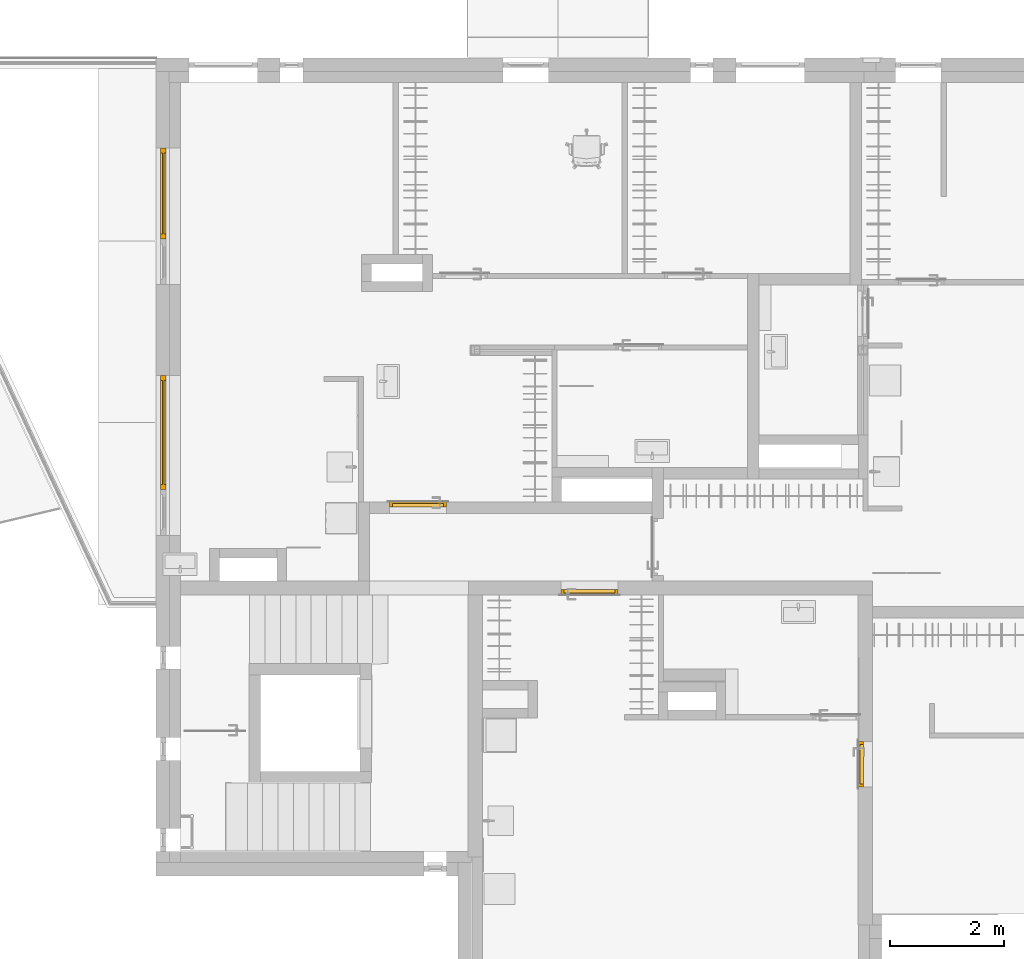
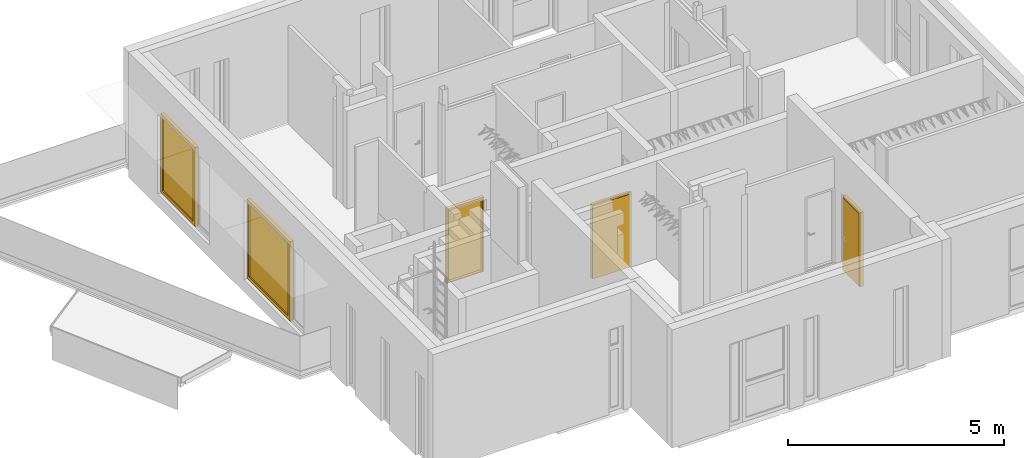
# One storey, part 13 of 42: 3 doors, 2 windows.
"""IFC2X3 building model written with IfcOpenShell, lengths in millimetres."""

from ifc_helpers import new_model, entity, si_unit, converted_unit, direction, frame, origin, place, context, subcontext, project, spatial, faceted_brep, source, transform, mapped, material, material_list, type_object, type_shapes, element, save


model = new_model("IFC2X3")

# Units and contexts
model_context = context("Model", 3, precision=0.01, world=origin(), true_north=direction((6.123233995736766e-17, 1.0)))
plan_context = context("Plan", 3, precision=0.01, world=origin(), true_north=direction((6.123233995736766e-17, 1.0)))
body_context = subcontext(model_context, "Body", "Model", "MODEL_VIEW")
ifc_project = project(units=[si_unit("LENGTHUNIT", "METRE", prefix="MILLI"), converted_unit("PLANEANGLEUNIT", "DEGREE", entity("IfcPlaneAngleMeasure", 0.017453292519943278), si_unit("PLANEANGLEUNIT", "RADIAN"), dimensions=[0, 0, 0, 0, 0, 0, 0]), si_unit("AREAUNIT", "SQUARE_METRE")], contexts=[model_context, plan_context])

# Site, building, storey
site_placement = place(None, origin())
site = spatial("IfcSite", under=ifc_project, at=site_placement, Name="Default", CompositionType="ELEMENT")
building_placement = place(site_placement, origin())
building = spatial("IfcBuilding", under=site, at=building_placement, CompositionType="ELEMENT")
storey_placement = place(building_placement, frame((0.0, 0.0, 9465.000076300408)))
storey = spatial("IfcBuildingStorey", under=building, at=storey_placement, Name="4K", CompositionType="ELEMENT", Elevation=9465.000076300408)

# Windows
ifc_material_1 = material(Name="_K. Avatäited. Raam. PVC. Valge")
ifc_material_2 = material(Name="_K. Klaas. Pakett")
ifc_material_3 = material(Name="_K. Avatäited. Raam. PVC. RAL9005")
ifc_material_list = material_list([ifc_material_1, ifc_material_2, ifc_material_3])
window_style_1 = type_object("IfcWindowStyle", Name="HR_Window_Generic_Rectangle_1x1:A-07.2000x2250.ma", ConstructionType="NOTDEFINED", OperationType="NOTDEFINED", ParameterTakesPrecedence=False, Sizeable=False, material=ifc_material_list)
shared_shape_1 = source(origin(), body_context, "Body", "Brep", [
    faceted_brep([(88.0, -194.0, 2162.0), (1912.0, -194.0, 2162.0), (1912.0, -194.0, 108.0), (88.0, -194.0, 108.0), (1942.0, -194.0, 2192.0), (58.0, -194.0, 2192.0), (58.0, -194.0, 78.0), (1942.0, -194.0, 78.0), (88.0, -159.0, 2162.0), (88.0, -159.0, 108.0), (1912.0, -159.0, 108.0), (1942.0, -159.0, 2192.0), (1942.0, -159.0, 78.0), (58.0, -159.0, 78.0), (58.0, -159.0, 2192.0), (1912.0, -159.0, 2162.0)], [[[0, 1, 2, 3], [4, 5, 6, 7]], [[8, 0, 3, 9]], [[9, 3, 2, 10]], [[11, 12, 13, 14], [15, 8, 9, 10]], [[1, 15, 10, 2]], [[6, 5, 14, 13]], [[7, 6, 13, 12]], [[4, 7, 12, 11]], [[15, 1, 0, 8]], [[5, 4, 11, 14]]], outer=[[False, True], [True], [True], [True, False], [True], [True], [True], [True], [True], [True]]),
    faceted_brep([(1942.0, -159.0, 2192.0), (58.0, -159.0, 2192.0), (58.0, -159.0, 78.0), (1942.0, -159.0, 78.0), (58.0, -134.0, 2192.0), (58.0, -134.0, 78.0), (1942.0, -134.0, 78.0), (1942.0, -134.0, 2192.0)], [[[0, 1, 2, 3]], [[2, 1, 4, 5]], [[3, 2, 5, 6]], [[0, 3, 6, 7]], [[7, 6, 5, 4]], [[1, 0, 7, 4]]]),
    faceted_brep([(1942.0, -134.0, 78.0), (58.0, -134.0, 78.0), (58.0, -194.0, 78.0), (1942.0, -194.0, 78.0), (58.0, -134.0, 2192.0), (58.0, -194.0, 2192.0), (1942.0, -134.0, 2192.0), (1942.0, -194.0, 2192.0), (88.0, -100.0, 108.0), (88.0, -100.0, 2162.0), (88.0, -134.0, 2162.0), (88.0, -134.0, 108.0), (1912.0, -100.0, 108.0), (1912.0, -134.0, 108.0), (1912.0, -100.0, 2162.0), (1912.0, -134.0, 2162.0), (0.0, -100.0, 2250.0), (2000.0, -100.0, 2250.0), (2000.0, -100.0, 30.0), (0.0, -100.0, 30.0), (2000.0, -194.0, 2250.0), (0.0, -194.0, 2250.0), (0.0, -194.0, 30.0), (2000.0, -194.0, 30.0), (0.0, -110.0, 30.0), (0.0, -110.0, 0.0), (0.0, -184.0, 0.0), (0.0, -184.0, 30.0), (2000.0, -184.0, 30.0), (2000.0, -184.0, 0.0), (2000.0, -110.0, 0.0), (2000.0, -110.0, 30.0)], [[[0, 1, 2, 3]], [[1, 4, 5, 2]], [[6, 0, 3, 7]], [[8, 9, 10, 11]], [[12, 8, 11, 13]], [[14, 12, 13, 15]], [[16, 17, 18, 19], [9, 8, 12, 14]], [[20, 21, 22, 23], [7, 3, 2, 5]], [[21, 16, 19, 24, 25, 26, 27, 22]], [[27, 28, 23, 22]], [[17, 20, 23, 28, 29, 30, 31, 18]], [[31, 24, 19, 18]], [[24, 31, 30, 25]], [[25, 30, 29, 26]], [[28, 27, 26, 29]], [[4, 6, 7, 5]], [[9, 14, 15, 10]], [[21, 20, 17, 16]], [[10, 15, 13, 11], [0, 6, 4, 1]]], outer=[[True], [True], [True], [True], [True], [True], [True, False], [True, False], [True], [True], [True], [True], [True], [True], [True], [True], [True], [True], [False, True]]),
])
type_shapes(window_style_1, [shared_shape_1])
window_1_placement = place(storey_placement, frame((-450.0, 8250.0, 150.0), z_axis=(0.0, 0.0, 1.0), x_axis=(0.0, 1.0, 0.0)))
element("IfcWindow", 1, at=window_1_placement, inside=storey, type_object=window_style_1, material=ifc_material_list, Name="HR_Window_Generic_Rectangle_1x1:A-07.2000x2250.ma", ObjectType="HR_Window_Generic_Rectangle_1x1:A-07.2000x2250.ma", OverallHeight=2315.0000000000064, OverallWidth=2000.0000000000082, context=body_context, shape_type="MappedRepresentation", body=[
    mapped(shared_shape_1, transform((0.0, 0.0, 0.0), scale=1.0)),
])
window_style_2 = type_object("IfcWindowStyle", Name="HR_Window_Generic_Rectangle_1x1:A-06.1600x2250.ma", ConstructionType="NOTDEFINED", OperationType="NOTDEFINED", ParameterTakesPrecedence=False, Sizeable=False, material=ifc_material_list)
shared_shape_2 = source(origin(), body_context, "Body", "Brep", [
    faceted_brep([(88.0, -194.0, 2162.0), (1512.0, -194.0, 2162.0), (1512.0, -194.0, 108.0), (88.0, -194.0, 108.0), (1542.0, -194.0, 2192.0), (58.0, -194.0, 2192.0), (58.0, -194.0, 78.0), (1542.0, -194.0, 78.0), (88.0, -159.0, 2162.0), (88.0, -159.0, 108.0), (1512.0, -159.0, 108.0), (1542.0, -159.0, 2192.0), (1542.0, -159.0, 78.0), (58.0, -159.0, 78.0), (58.0, -159.0, 2192.0), (1512.0, -159.0, 2162.0)], [[[0, 1, 2, 3], [4, 5, 6, 7]], [[8, 0, 3, 9]], [[9, 3, 2, 10]], [[11, 12, 13, 14], [15, 8, 9, 10]], [[1, 15, 10, 2]], [[6, 5, 14, 13]], [[7, 6, 13, 12]], [[4, 7, 12, 11]], [[15, 1, 0, 8]], [[5, 4, 11, 14]]], outer=[[False, True], [True], [True], [True, False], [True], [True], [True], [True], [True], [True]]),
    faceted_brep([(1542.0, -159.0, 2192.0), (58.0, -159.0, 2192.0), (58.0, -159.0, 78.0), (1542.0, -159.0, 78.0), (58.0, -134.0, 2192.0), (58.0, -134.0, 78.0), (1542.0, -134.0, 78.0), (1542.0, -134.0, 2192.0)], [[[0, 1, 2, 3]], [[2, 1, 4, 5]], [[3, 2, 5, 6]], [[0, 3, 6, 7]], [[7, 6, 5, 4]], [[1, 0, 7, 4]]]),
    faceted_brep([(1542.0, -134.0, 78.0), (58.0, -134.0, 78.0), (58.0, -194.0, 78.0), (1542.0, -194.0, 78.0), (58.0, -134.0, 2192.0), (58.0, -194.0, 2192.0), (1542.0, -134.0, 2192.0), (1542.0, -194.0, 2192.0), (88.0, -100.0, 108.0), (88.0, -100.0, 2162.0), (88.0, -134.0, 2162.0), (88.0, -134.0, 108.0), (1512.0, -100.0, 108.0), (1512.0, -134.0, 108.0), (1512.0, -100.0, 2162.0), (1512.0, -134.0, 2162.0), (0.0, -100.0, 2250.0), (1600.0, -100.0, 2250.0), (1600.0, -100.0, 30.0), (0.0, -100.0, 30.0), (1600.0, -194.0, 2250.0), (0.0, -194.0, 2250.0), (0.0, -194.0, 30.0), (1600.0, -194.0, 30.0), (0.0, -110.0, 30.0), (0.0, -110.0, 0.0), (0.0, -184.0, 0.0), (0.0, -184.0, 30.0), (1600.0, -184.0, 30.0), (1600.0, -184.0, 0.0), (1600.0, -110.0, 0.0), (1600.0, -110.0, 30.0)], [[[0, 1, 2, 3]], [[1, 4, 5, 2]], [[6, 0, 3, 7]], [[8, 9, 10, 11]], [[12, 8, 11, 13]], [[14, 12, 13, 15]], [[16, 17, 18, 19], [9, 8, 12, 14]], [[20, 21, 22, 23], [7, 3, 2, 5]], [[21, 16, 19, 24, 25, 26, 27, 22]], [[27, 28, 23, 22]], [[17, 20, 23, 28, 29, 30, 31, 18]], [[31, 24, 19, 18]], [[24, 31, 30, 25]], [[25, 30, 29, 26]], [[28, 27, 26, 29]], [[4, 6, 7, 5]], [[9, 14, 15, 10]], [[21, 20, 17, 16]], [[10, 15, 13, 11], [0, 6, 4, 1]]], outer=[[True], [True], [True], [True], [True], [True], [True, False], [True, False], [True], [True], [True], [True], [True], [True], [True], [True], [True], [True], [False, True]]),
])
type_shapes(window_style_2, [shared_shape_2])
window_2_placement = place(storey_placement, frame((-450.0, 12650.0, 150.0), z_axis=(0.0, 0.0, 1.0), x_axis=(0.0, 1.0, 0.0)))
element("IfcWindow", 2, at=window_2_placement, inside=storey, type_object=window_style_2, material=ifc_material_list, Name="HR_Window_Generic_Rectangle_1x1:A-06.1600x2250.ma", ObjectType="HR_Window_Generic_Rectangle_1x1:A-06.1600x2250.ma", OverallHeight=2315.000000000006, OverallWidth=1600.0000000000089, context=body_context, shape_type="MappedRepresentation", body=[
    mapped(shared_shape_2, transform((0.0, 0.0, 0.0), scale=1.0)),
])

# Doors
ifc_material_4 = material(Name="_K. Puit. Peitsitud ja lakitud")
door_style_1 = type_object("IfcDoorStyle", Name="HR_Generic_Hinged_Single:Default. Manteluks lävepakuga. 800 x 2100 mm. Right", ConstructionType="NOTDEFINED", OperationType="NOTDEFINED", ParameterTakesPrecedence=False, Sizeable=False, material=ifc_material_4)
shared_shape_3 = source(origin(), body_context, "Body", "Brep", [
    faceted_brep([(765.0, -1000.0, 20.0), (35.0, -1000.0, 20.0), (35.0, -1030.0, 20.0), (50.0, -1030.0, 20.0), (50.0, -1092.0, 20.0), (750.0, -1092.0, 20.0), (750.0, -1030.0, 20.0), (765.0, -1030.0, 20.0), (35.0, -1000.0, 0.0), (765.0, -1000.0, 0.0), (765.0, -1030.0, 0.0), (750.0, -1030.0, 0.0), (750.0, -1092.0, 0.0), (50.0, -1092.0, 0.0), (50.0, -1030.0, 0.0), (35.0, -1030.0, 0.0)], [[[0, 1, 2, 3, 4, 5, 6, 7]], [[8, 9, 10, 11, 12, 13, 14, 15]], [[1, 0, 9, 8]], [[5, 4, 13, 12]], [[2, 1, 8, 15]], [[0, 7, 10, 9]], [[3, 14, 13, 4]], [[14, 3, 2, 15]], [[6, 11, 10, 7]], [[11, 6, 5, 12]]]),
    faceted_brep([(37.0, -1030.0, 2060.0), (37.0, -1030.0, 25.0), (763.0, -1030.0, 25.0), (763.0, -1030.0, 2060.0), (27.0, -990.0, 25.0), (27.0, -990.0, 2070.0), (773.0, -990.0, 2070.0), (773.0, -990.0, 25.0), (37.0, -1000.0, 2060.0), (37.0, -1000.0, 25.0), (27.0, -1000.0, 25.0), (773.0, -1000.0, 25.0), (763.0, -1000.0, 25.0), (763.0, -1000.0, 2060.0), (27.0, -1000.0, 2070.0), (773.0, -1000.0, 2070.0)], [[[0, 1, 2, 3]], [[4, 5, 6, 7]], [[1, 0, 8, 9]], [[2, 1, 9, 10, 4, 7, 11, 12]], [[3, 2, 12, 13]], [[0, 3, 13, 8]], [[14, 10, 9, 8, 13, 12, 11, 15]], [[6, 5, 14, 15]], [[7, 6, 15, 11]], [[5, 4, 10, 14]]]),
    faceted_brep([(800.0, -1092.0, 0.0), (750.0, -1092.0, 0.0), (750.0, -1030.0, 0.0), (765.0, -1030.0, 0.0), (765.0, -1000.0, 0.0), (800.0, -1000.0, 0.0), (800.0, -1092.0, 2100.0), (0.0, -1092.0, 2100.0), (0.0, -1092.0, 0.0), (50.0, -1092.0, 0.0), (50.0, -1092.0, 2050.0), (750.0, -1092.0, 2050.0), (750.0, -1030.0, 2050.0), (35.0, -1030.0, 2065.0), (765.0, -1030.0, 2065.0), (50.0, -1030.0, 2050.0), (50.0, -1030.0, 0.0), (35.0, -1030.0, 0.0), (765.0, -1000.0, 2065.0), (0.0, -1000.0, 0.0), (0.0, -1000.0, 2100.0), (800.0, -1000.0, 2100.0), (35.0, -1000.0, 2065.0), (35.0, -1000.0, 0.0)], [[[0, 1, 2, 3, 4, 5]], [[1, 0, 6, 7, 8, 9, 10, 11]], [[1, 11, 12, 2]], [[13, 14, 3, 2, 12, 15, 16, 17]], [[3, 14, 18, 4]], [[19, 20, 21, 5, 4, 18, 22, 23]], [[0, 5, 21, 6]], [[8, 19, 23, 17, 16, 9]], [[19, 8, 7, 20]], [[13, 17, 23, 22]], [[10, 9, 16, 15]], [[7, 6, 21, 20]], [[11, 10, 15, 12]], [[14, 13, 22, 18]]]),
])
type_shapes(door_style_1, [shared_shape_3])
door_1_placement = place(storey_placement, frame((10894.993534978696, 3030.0, 0.0), z_axis=(0.0, 0.0, 1.0), x_axis=(0.0, 1.0, 0.0)))
element("IfcDoor", 3, at=door_1_placement, inside=storey, type_object=door_style_1, material=ifc_material_4, Name="HR_Generic_Hinged_Single:Default. Manteluks lävepakuga. 800 x 2100 mm. Right", ObjectType="HR_Generic_Hinged_Single:Default. Manteluks lävepakuga. 800 x 2100 mm. Right", OverallHeight=2130.000000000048, OverallWidth=860.0000000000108, context=body_context, shape_type="MappedRepresentation", body=[
    mapped(shared_shape_3, transform((0.0, 0.0, 0.0), scale=1.0)),
])
door_style_2 = type_object("IfcDoorStyle", Name="HR_Generic_Hinged_Single:Default. Manteluks lävepakuga. 1000 x 2100 mm. Right", ConstructionType="NOTDEFINED", OperationType="NOTDEFINED", ParameterTakesPrecedence=False, Sizeable=False, material=ifc_material_4)
shared_shape_4 = source(origin(), body_context, "Body", "Brep", [
    faceted_brep([(965.0, -1000.0, 20.0), (35.0, -1000.0, 20.0), (35.0, -1030.0, 20.0), (50.0, -1030.0, 20.0), (50.0, -1092.0, 20.0), (950.0, -1092.0, 20.0), (950.0, -1030.0, 20.0), (965.0, -1030.0, 20.0), (35.0, -1000.0, 0.0), (965.0, -1000.0, 0.0), (965.0, -1030.0, 0.0), (950.0, -1030.0, 0.0), (950.0, -1092.0, 0.0), (50.0, -1092.0, 0.0), (50.0, -1030.0, 0.0), (35.0, -1030.0, 0.0)], [[[0, 1, 2, 3, 4, 5, 6, 7]], [[8, 9, 10, 11, 12, 13, 14, 15]], [[1, 0, 9, 8]], [[5, 4, 13, 12]], [[2, 1, 8, 15]], [[0, 7, 10, 9]], [[3, 14, 13, 4]], [[14, 3, 2, 15]], [[6, 11, 10, 7]], [[11, 6, 5, 12]]]),
    faceted_brep([(37.0, -1030.0, 2060.0), (37.0, -1030.0, 25.0), (963.0, -1030.0, 25.0), (963.0, -1030.0, 2060.0), (27.0, -990.0, 25.0), (27.0, -990.0, 2070.0), (973.0, -990.0, 2070.0), (973.0, -990.0, 25.0), (37.0, -1000.0, 2060.0), (37.0, -1000.0, 25.0), (27.0, -1000.0, 25.0), (973.0, -1000.0, 25.0), (963.0, -1000.0, 25.0), (963.0, -1000.0, 2060.0), (27.0, -1000.0, 2070.0), (973.0, -1000.0, 2070.0)], [[[0, 1, 2, 3]], [[4, 5, 6, 7]], [[1, 0, 8, 9]], [[2, 1, 9, 10, 4, 7, 11, 12]], [[3, 2, 12, 13]], [[0, 3, 13, 8]], [[14, 10, 9, 8, 13, 12, 11, 15]], [[6, 5, 14, 15]], [[7, 6, 15, 11]], [[5, 4, 10, 14]]]),
    faceted_brep([(1000.0, -1092.0, 0.0), (950.0, -1092.0, 0.0), (950.0, -1030.0, 0.0), (965.0, -1030.0, 0.0), (965.0, -1000.0, 0.0), (1000.0, -1000.0, 0.0), (1000.0, -1092.0, 2100.0), (0.0, -1092.0, 2100.0), (0.0, -1092.0, 0.0), (50.0, -1092.0, 0.0), (50.0, -1092.0, 2050.0), (950.0, -1092.0, 2050.0), (950.0, -1030.0, 2050.0), (35.0, -1030.0, 2065.0), (965.0, -1030.0, 2065.0), (50.0, -1030.0, 2050.0), (50.0, -1030.0, 0.0), (35.0, -1030.0, 0.0), (965.0, -1000.0, 2065.0), (0.0, -1000.0, 0.0), (0.0, -1000.0, 2100.0), (1000.0, -1000.0, 2100.0), (35.0, -1000.0, 2065.0), (35.0, -1000.0, 0.0)], [[[0, 1, 2, 3, 4, 5]], [[1, 0, 6, 7, 8, 9, 10, 11]], [[1, 11, 12, 2]], [[13, 14, 3, 2, 12, 15, 16, 17]], [[3, 14, 18, 4]], [[19, 20, 21, 5, 4, 18, 22, 23]], [[0, 5, 21, 6]], [[8, 19, 23, 17, 16, 9]], [[19, 8, 7, 20]], [[13, 17, 23, 22]], [[10, 9, 16, 15]], [[7, 6, 21, 20]], [[11, 10, 15, 12]], [[14, 13, 22, 18]]]),
])
type_shapes(door_style_2, [shared_shape_4])
door_2_placement = place(storey_placement, frame((7680.0, 5404.999959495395, 0.0), z_axis=(0.0, 0.0, 1.0), x_axis=(-1.0, 0.0, 0.0)))
element("IfcDoor", 4, at=door_2_placement, inside=storey, type_object=door_style_2, material=ifc_material_4, Name="HR_Generic_Hinged_Single:Default. Manteluks lävepakuga. 1000 x 2100 mm. Right", ObjectType="HR_Generic_Hinged_Single:Default. Manteluks lävepakuga. 1000 x 2100 mm. Right", OverallHeight=2130.000000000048, OverallWidth=1060.0000000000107, context=body_context, shape_type="MappedRepresentation", body=[
    mapped(shared_shape_4, transform((0.0, 0.0, 0.0), scale=1.0)),
])
door_style_3 = type_object("IfcDoorStyle", Name="HR_Generic_Hinged_Single:Default. Manteluks lävepakuga. 1000 x 2100 mm. Right", ConstructionType="NOTDEFINED", OperationType="NOTDEFINED", ParameterTakesPrecedence=False, Sizeable=False, material=ifc_material_4)
shared_shape_5 = source(origin(), body_context, "Body", "Brep", [
    faceted_brep([(965.0, -1000.0, 20.0), (35.0, -1000.0, 20.0), (35.0, -1030.0, 20.0), (50.0, -1030.0, 20.0), (50.0, -1092.0, 20.0), (950.0, -1092.0, 20.0), (950.0, -1030.0, 20.0), (965.0, -1030.0, 20.0), (35.0, -1000.0, 0.0), (965.0, -1000.0, 0.0), (965.0, -1030.0, 0.0), (950.0, -1030.0, 0.0), (950.0, -1092.0, 0.0), (50.0, -1092.0, 0.0), (50.0, -1030.0, 0.0), (35.0, -1030.0, 0.0)], [[[0, 1, 2, 3, 4, 5, 6, 7]], [[8, 9, 10, 11, 12, 13, 14, 15]], [[1, 0, 9, 8]], [[5, 4, 13, 12]], [[2, 1, 8, 15]], [[0, 7, 10, 9]], [[3, 14, 13, 4]], [[14, 3, 2, 15]], [[6, 11, 10, 7]], [[11, 6, 5, 12]]]),
    faceted_brep([(37.0, -1030.0, 2060.0), (37.0, -1030.0, 25.0), (963.0, -1030.0, 25.0), (963.0, -1030.0, 2060.0), (27.0, -990.0, 25.0), (27.0, -990.0, 2070.0), (973.0, -990.0, 2070.0), (973.0, -990.0, 25.0), (37.0, -1000.0, 2060.0), (37.0, -1000.0, 25.0), (27.0, -1000.0, 25.0), (973.0, -1000.0, 25.0), (963.0, -1000.0, 25.0), (963.0, -1000.0, 2060.0), (27.0, -1000.0, 2070.0), (973.0, -1000.0, 2070.0)], [[[0, 1, 2, 3]], [[4, 5, 6, 7]], [[1, 0, 8, 9]], [[2, 1, 9, 10, 4, 7, 11, 12]], [[3, 2, 12, 13]], [[0, 3, 13, 8]], [[14, 10, 9, 8, 13, 12, 11, 15]], [[6, 5, 14, 15]], [[7, 6, 15, 11]], [[5, 4, 10, 14]]]),
    faceted_brep([(1000.0, -1092.0, 0.0), (950.0, -1092.0, 0.0), (950.0, -1030.0, 0.0), (965.0, -1030.0, 0.0), (965.0, -1000.0, 0.0), (1000.0, -1000.0, 0.0), (1000.0, -1092.0, 2100.0), (0.0, -1092.0, 2100.0), (0.0, -1092.0, 0.0), (50.0, -1092.0, 0.0), (50.0, -1092.0, 2050.0), (950.0, -1092.0, 2050.0), (950.0, -1030.0, 2050.0), (35.0, -1030.0, 2065.0), (965.0, -1030.0, 2065.0), (50.0, -1030.0, 2050.0), (50.0, -1030.0, 0.0), (35.0, -1030.0, 0.0), (965.0, -1000.0, 2065.0), (0.0, -1000.0, 0.0), (0.0, -1000.0, 2100.0), (1000.0, -1000.0, 2100.0), (35.0, -1000.0, 2065.0), (35.0, -1000.0, 0.0)], [[[0, 1, 2, 3, 4, 5]], [[1, 0, 6, 7, 8, 9, 10, 11]], [[1, 11, 12, 2]], [[13, 14, 3, 2, 12, 15, 16, 17]], [[3, 14, 18, 4]], [[19, 20, 21, 5, 4, 18, 22, 23]], [[0, 5, 21, 6]], [[8, 19, 23, 17, 16, 9]], [[19, 8, 7, 20]], [[13, 17, 23, 22]], [[10, 9, 16, 15]], [[7, 6, 21, 20]], [[11, 10, 15, 12]], [[14, 13, 22, 18]]]),
])
type_shapes(door_style_3, [shared_shape_5])
door_3_placement = place(storey_placement, frame((3670.0, 9034.999959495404, 0.0)))
element("IfcDoor", 5, at=door_3_placement, inside=storey, type_object=door_style_3, material=ifc_material_4, Name="HR_Generic_Hinged_Single:Default. Manteluks lävepakuga. 1000 x 2100 mm. Right", ObjectType="HR_Generic_Hinged_Single:Default. Manteluks lävepakuga. 1000 x 2100 mm. Right", OverallHeight=2130.000000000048, OverallWidth=1060.0000000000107, context=body_context, shape_type="MappedRepresentation", body=[
    mapped(shared_shape_5, transform((0.0, 0.0, 0.0), scale=1.0)),
])

save(model, "model.ifc")
